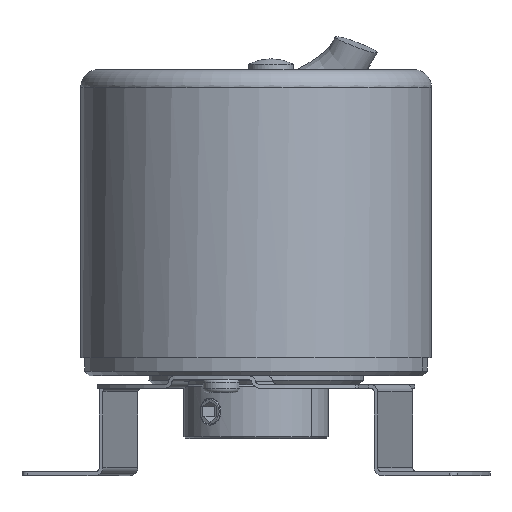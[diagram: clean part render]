
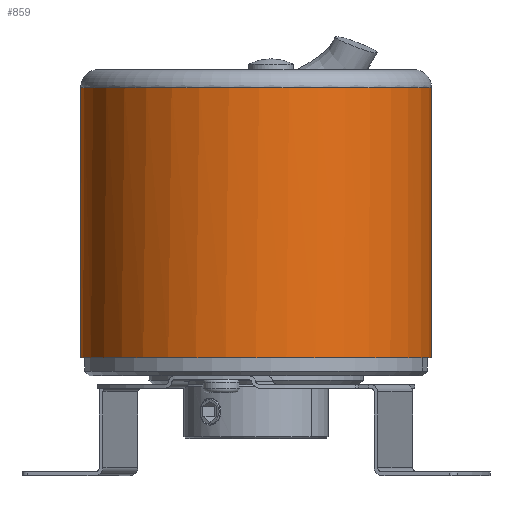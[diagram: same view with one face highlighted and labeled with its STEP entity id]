
A CAD part, front view. The second image highlights one B-rep face of the part: STEP entity #859.
In plain terms, the highlighted cylindrical face has radius 19.5 mm (diameter 39 mm), a full revolution.
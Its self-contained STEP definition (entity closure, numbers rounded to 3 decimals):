
#666=FACE_BOUND('',#1383,.T.);
#667=FACE_BOUND('',#1384,.T.);
#859=ADVANCED_FACE('',(#666,#667),#1087,.T.);
#1087=CYLINDRICAL_SURFACE('',#4708,19.5);
#1383=EDGE_LOOP('',(#1750));
#1384=EDGE_LOOP('',(#1751,#1752,#1753,#1754));
#1750=ORIENTED_EDGE('',*,*,#3166,.T.);
#1751=ORIENTED_EDGE('',*,*,#3167,.T.);
#1752=ORIENTED_EDGE('',*,*,#3168,.T.);
#1753=ORIENTED_EDGE('',*,*,#3169,.T.);
#1754=ORIENTED_EDGE('',*,*,#3170,.T.);
#2808=VERTEX_POINT('',#6387);
#2809=VERTEX_POINT('',#6389);
#2810=VERTEX_POINT('',#6390);
#2811=VERTEX_POINT('',#6392);
#2812=VERTEX_POINT('',#6394);
#3166=EDGE_CURVE('',#2808,#2808,#3692,.T.);
#3167=EDGE_CURVE('',#2809,#2810,#3693,.T.);
#3168=EDGE_CURVE('',#2810,#2811,#4173,.T.);
#3169=EDGE_CURVE('',#2811,#2812,#3694,.T.);
#3170=EDGE_CURVE('',#2812,#2809,#4174,.T.);
#3692=CIRCLE('',#4705,19.5);
#3693=CIRCLE('',#4706,19.5);
#3694=CIRCLE('',#4707,19.5);
#4173=LINE('',#6391,#4445);
#4174=LINE('',#6395,#4446);
#4445=VECTOR('',#5187,1.);
#4446=VECTOR('',#5190,1.);
#4705=AXIS2_PLACEMENT_3D('',#6386,#5183,#5184);
#4706=AXIS2_PLACEMENT_3D('',#6388,#5185,#5186);
#4707=AXIS2_PLACEMENT_3D('',#6393,#5188,#5189);
#4708=AXIS2_PLACEMENT_3D('',#6396,#5191,#5192);
#5183=DIRECTION('',(0.,0.,1.));
#5184=DIRECTION('',(1.,0.,0.));
#5185=DIRECTION('',(0.,0.,-1.));
#5186=DIRECTION('',(-1.,0.,0.));
#5187=DIRECTION('',(0.,0.,1.));
#5188=DIRECTION('',(0.,0.,-1.));
#5189=DIRECTION('',(-1.,0.,0.));
#5190=DIRECTION('',(0.,0.,-1.));
#5191=DIRECTION('',(0.,0.,1.));
#5192=DIRECTION('',(1.,0.,0.));
#6386=CARTESIAN_POINT('',(-28.953,-7.454,-39.));
#6387=CARTESIAN_POINT('',(-9.453,-7.454,-39.));
#6388=CARTESIAN_POINT('',(-28.953,-7.454,-20.661));
#6389=CARTESIAN_POINT('',(-36.459,10.544,-20.661));
#6390=CARTESIAN_POINT('',(-21.446,10.544,-20.661));
#6391=CARTESIAN_POINT('',(-21.446,10.544,-39.));
#6392=CARTESIAN_POINT('',(-21.446,10.544,-9.));
#6393=CARTESIAN_POINT('',(-28.953,-7.454,-9.));
#6394=CARTESIAN_POINT('',(-36.459,10.544,-9.));
#6395=CARTESIAN_POINT('',(-36.459,10.544,-39.));
#6396=CARTESIAN_POINT('',(-28.953,-7.454,-39.));
